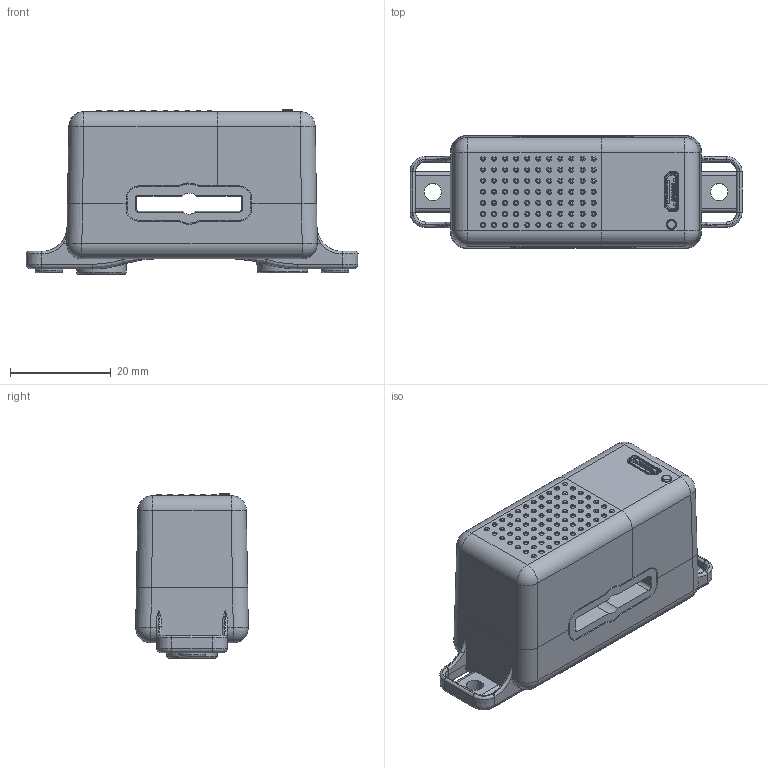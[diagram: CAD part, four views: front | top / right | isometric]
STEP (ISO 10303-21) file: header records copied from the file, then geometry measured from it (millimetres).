
FILE_DESCRIPTION(/* description */ (''),/* implementation_level */ '2;1');
FILE_NAME(/* name */ 'D:\WorkIMT\Project IMT\iT, iTM, iOT\На сайт\МТ.МЕЛИССА.ТД.ХХ.stp',/* time_stamp */ '2021-12-02T18:59:52+03:00',/* author */ ('Иван'),/* organization */ (''),/* preprocessor_version */ 'ST-DEVELOPER v17.2',/* originating_system */ 'Autodesk Inventor 2019',/* authorisation */ '');
FILE_SCHEMA (('AUTOMOTIVE_DESIGN { 1 0 10303 214 3 1 1 }'));
Length unit declared in the file: millimetre
Products named in the file (17): МТ.МЕЛИССА.
ТД.01; MT.MELISSA.S.BASE.18; MT.MELISSA.S.BASE.18_1; MT.MELISSA.S.INSERT.02; MT.MELISSA.S.CAP.11; LEM-133V0; MT.MELISSA.S.AU.CC.10; MT.MELISSA.S.AU.CWP.10; MT.MELISSA.S.CARCASS.10; Медная проволока 
МТЛ 0,8 мм ГОСТ 226
66-77 L=8 мм; Намотка провода 
ПЭТВ-2 0,1; MELISSA_SENSOR_v7; MELISSA_SENSOR_v7_BoardAndModels; DesignRootModel; Submodel-1051330011_part_1051330011; Submodel-C_WDIREEVX.1.1DxProjectsMELISSA_SENSOR_V7BLayout3DImportedPa
rtModels1051330011.stp; 1051330011.stp
Assembly tree (17 placements, depth 7):
  МТ.МЕЛИССА.
ТД.01
    MT.MELISSA.S.BASE.18
      MT.MELISSA.S.BASE.18_1
      MT.MELISSA.S.INSERT.02
    MT.MELISSA.S.CAP.11
    LEM-133V0
    MT.MELISSA.S.AU.CC.10
      MT.MELISSA.S.AU.CWP.10
        MT.MELISSA.S.CARCASS.10
        Медная проволока 
МТЛ 0,8 мм ГОСТ 226
66-77 L=8 мм  x2
      Намотка провода 
ПЭТВ-2 0,1
    MELISSA_SENSOR_v7
      MELISSA_SENSOR_v7_BoardAndModels
        DesignRootModel
          Submodel-1051330011_part_1051330011
            Submodel-C_WDIREEVX.1.1DxProjectsMELISSA_SENSOR_V7BLayout3DImportedPa
rtModels1051330011.stp
              1051330011.stp
Bounding box: 66.01 x 22.39 x 32.8 mm (x, y, z)
Volume: 18362.6 mm3; surface area: 20389.8 mm2
Topology: 9 solids, 9 shells, 1502 faces, 4132 edges, 2751 vertices
Faces by surface type: plane 788, cylinder 441, torus 125, bspline 78, cone 48, sphere 22
Full cylindrical faces by diameter (mm): 0.8 x2, 1.48 x1, 2 x1, 3.7 x1, 5.4 x2, 6.7 x2, 8 x2, 8.173 x1
Entity records: 51172 total; most frequent: CARTESIAN_POINT 11210, DIRECTION 8484, ORIENTED_EDGE 8150, EDGE_CURVE 4075, AXIS2_PLACEMENT_3D 3047, VERTEX_POINT 2661, LINE 2390, VECTOR 2390
